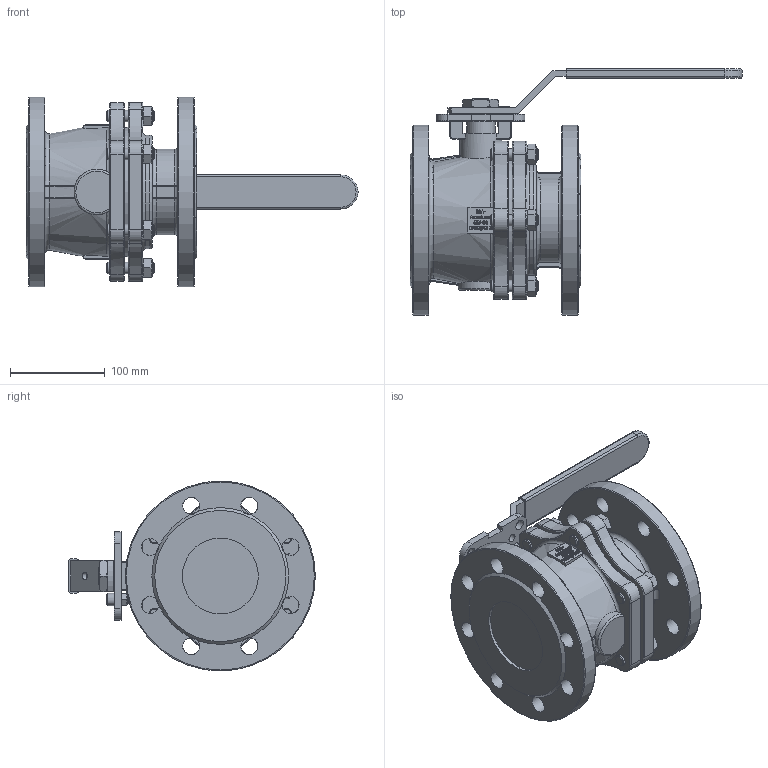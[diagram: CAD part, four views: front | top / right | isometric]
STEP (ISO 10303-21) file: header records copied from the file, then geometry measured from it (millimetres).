
FILE_DESCRIPTION((''),'2;1');
FILE_NAME('K:\Inventor\1 Artikel\12) Flanschen-Kugelhähne\12a) manuell\Econosto\465-GS, PN40, 7249\465-GS, DN80\465-GS, DN80, 3D\465-GS, DN80, PN40, HH, 3D.stp','2019-11-25T15:10:10',('claudia'),(''),'Autodesk Inventor 2013','Autodesk Inventor 2013','');
FILE_SCHEMA(('AUTOMOTIVE_DESIGN { 1 0 10303 214 1 1 1 1 }'));
Length unit declared in the file: millimetre
Products named in the file (1): Bauteil6
Bounding box: 349.5 x 259.6 x 200 mm (x, y, z)
Volume: 3269395.7 mm3; surface area: 297354.9 mm2
Topology: 1 solids, 2 shells, 1567 faces, 4188 edges, 2753 vertices
Faces by surface type: plane 779, bspline 533, cylinder 130, torus 83, cone 42
Full cylindrical faces by diameter (mm): 8 x4, 9 x4, 11 x4, 12 x18, 12.5 x6, 13 x1, 18 x16, 30 x1, 44 x1, 48 x1, 80 x2, 120 x1, 135.821 x1, 200 x2
Entity records: 53308 total; most frequent: CARTESIAN_POINT 17902, ORIENTED_EDGE 8118, DIRECTION 5356, EDGE_CURVE 4059, VERTEX_POINT 2724, VECTOR 2336, LINE 2336, EDGE_LOOP 1863
